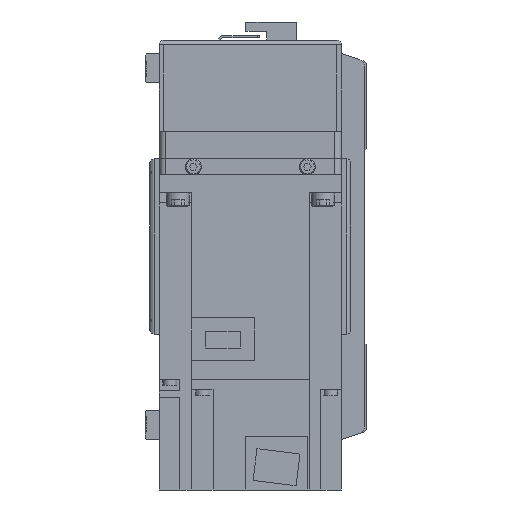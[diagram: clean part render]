
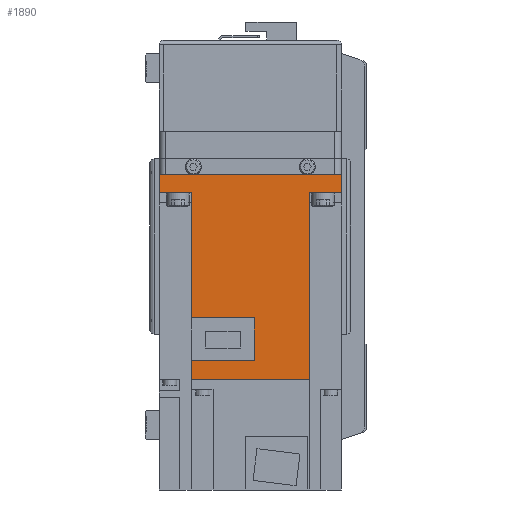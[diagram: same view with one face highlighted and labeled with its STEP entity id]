
A CAD part, left-side view. The second image highlights one B-rep face of the part: STEP entity #1890.
In plain terms, the highlighted planar face has unit normal (-1, 0, 0) as drawn and (1, 0, 0) by its records, which use the part's own axes.
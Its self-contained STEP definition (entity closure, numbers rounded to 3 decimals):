
#1890 = ADVANCED_FACE( '', ( #4509 ), #4510, .F. );
#4509 = FACE_OUTER_BOUND( '', #8003, .T. );
#4510 = PLANE( '', #8004 );
#8003 = EDGE_LOOP( '', ( #13401, #13402, #13403, #13404, #13405, #13406, #13407, #13408, #13409, #13410, #13411, #13412 ) );
#8004 = AXIS2_PLACEMENT_3D( '', #13413, #13414, #13415 );
#13401 = ORIENTED_EDGE( '', *, *, #21472, .F. );
#13402 = ORIENTED_EDGE( '', *, *, #20104, .F. );
#13403 = ORIENTED_EDGE( '', *, *, #21473, .F. );
#13404 = ORIENTED_EDGE( '', *, *, #20342, .T. );
#13405 = ORIENTED_EDGE( '', *, *, #21474, .F. );
#13406 = ORIENTED_EDGE( '', *, *, #21475, .T. );
#13407 = ORIENTED_EDGE( '', *, *, #21476, .T. );
#13408 = ORIENTED_EDGE( '', *, *, #21477, .F. );
#13409 = ORIENTED_EDGE( '', *, *, #21478, .F. );
#13410 = ORIENTED_EDGE( '', *, *, #20106, .F. );
#13411 = ORIENTED_EDGE( '', *, *, #21479, .F. );
#13412 = ORIENTED_EDGE( '', *, *, #20479, .F. );
#13413 = CARTESIAN_POINT( '', ( 40., 89.8, 40. ) );
#13414 = DIRECTION( '', ( -1., 0., 0. ) );
#13415 = DIRECTION( '', ( 0., 0., 1. ) );
#20104 = EDGE_CURVE( '', #24043, #24045, #24046, .T. );
#20106 = EDGE_CURVE( '', #24047, #24049, #24050, .T. );
#20342 = EDGE_CURVE( '', #24450, #24448, #24451, .T. );
#20479 = EDGE_CURVE( '', #24687, #24688, #24689, .T. );
#21472 = EDGE_CURVE( '', #24045, #24687, #26308, .T. );
#21473 = EDGE_CURVE( '', #24450, #24043, #26309, .T. );
#21474 = EDGE_CURVE( '', #26310, #24448, #26311, .T. );
#21475 = EDGE_CURVE( '', #26310, #26312, #26313, .T. );
#21476 = EDGE_CURVE( '', #26312, #26314, #26315, .T. );
#21477 = EDGE_CURVE( '', #26316, #26314, #26317, .T. );
#21478 = EDGE_CURVE( '', #24049, #26316, #26318, .T. );
#21479 = EDGE_CURVE( '', #24688, #24047, #26319, .T. );
#24043 = VERTEX_POINT( '', #29751 );
#24045 = VERTEX_POINT( '', #29754 );
#24046 = LINE( '', #29755, #29756 );
#24047 = VERTEX_POINT( '', #29757 );
#24049 = VERTEX_POINT( '', #29760 );
#24050 = LINE( '', #29761, #29762 );
#24448 = VERTEX_POINT( '', #30346 );
#24450 = VERTEX_POINT( '', #30349 );
#24451 = LINE( '', #30350, #30351 );
#24687 = VERTEX_POINT( '', #30899 );
#24688 = VERTEX_POINT( '', #30900 );
#24689 = LINE( '', #30901, #30902 );
#26308 = LINE( '', #33276, #33277 );
#26309 = LINE( '', #33278, #33279 );
#26310 = VERTEX_POINT( '', #33280 );
#26311 = LINE( '', #33281, #33282 );
#26312 = VERTEX_POINT( '', #33283 );
#26313 = LINE( '', #33284, #33285 );
#26314 = VERTEX_POINT( '', #33286 );
#26315 = LINE( '', #33287, #33288 );
#26316 = VERTEX_POINT( '', #33289 );
#26317 = LINE( '', #33290, #33291 );
#26318 = LINE( '', #33292, #33293 );
#26319 = LINE( '', #33294, #33295 );
#29751 = CARTESIAN_POINT( '', ( 40., 89.8, -25.95 ) );
#29754 = CARTESIAN_POINT( '', ( 40., 81.4, -25.95 ) );
#29755 = CARTESIAN_POINT( '', ( 40., 158., -25.95 ) );
#29756 = VECTOR( '', #37473, 1000. );
#29757 = CARTESIAN_POINT( '', ( 40., 62.8, -25.95 ) );
#29760 = CARTESIAN_POINT( '', ( 40., 8., -25.95 ) );
#29761 = CARTESIAN_POINT( '', ( 40., 158., -25.95 ) );
#29762 = VECTOR( '', #37475, 1000. );
#30346 = CARTESIAN_POINT( '', ( 40., 8., 25.95 ) );
#30349 = CARTESIAN_POINT( '', ( 40., 89.8, 25.95 ) );
#30350 = CARTESIAN_POINT( '', ( 40., 158., 25.95 ) );
#30351 = VECTOR( '', #37806, 1000. );
#30899 = CARTESIAN_POINT( '', ( 40., 81.4, 1.8 ) );
#30900 = CARTESIAN_POINT( '', ( 40., 62.8, 1.8 ) );
#30901 = CARTESIAN_POINT( '', ( 40., 81.4, 1.8 ) );
#30902 = VECTOR( '', #37975, 1000. );
#33276 = CARTESIAN_POINT( '', ( 40., 81.4, -26. ) );
#33277 = VECTOR( '', #39263, 1000. );
#33278 = CARTESIAN_POINT( '', ( 40., 89.8, 40. ) );
#33279 = VECTOR( '', #39264, 1000. );
#33280 = CARTESIAN_POINT( '', ( 40., 8., 40. ) );
#33281 = CARTESIAN_POINT( '', ( 40., 8., 40. ) );
#33282 = VECTOR( '', #39265, 1000. );
#33283 = CARTESIAN_POINT( '', ( 40., 0., 40. ) );
#33284 = CARTESIAN_POINT( '', ( 40., 89.8, 40. ) );
#33285 = VECTOR( '', #39266, 1000. );
#33286 = CARTESIAN_POINT( '', ( 40., 0., -40. ) );
#33287 = CARTESIAN_POINT( '', ( 40., 0., 40. ) );
#33288 = VECTOR( '', #39267, 1000. );
#33289 = CARTESIAN_POINT( '', ( 40., 8., -40. ) );
#33290 = CARTESIAN_POINT( '', ( 40., 89.8, -40. ) );
#33291 = VECTOR( '', #39268, 1000. );
#33292 = CARTESIAN_POINT( '', ( 40., 8., 40. ) );
#33293 = VECTOR( '', #39269, 1000. );
#33294 = CARTESIAN_POINT( '', ( 40., 62.8, 1.8 ) );
#33295 = VECTOR( '', #39270, 1000. );
#37473 = DIRECTION( '', ( 0., -1., 0. ) );
#37475 = DIRECTION( '', ( 0., -1., 0. ) );
#37806 = DIRECTION( '', ( 0., -1., 0. ) );
#37975 = DIRECTION( '', ( 0., -1., 0. ) );
#39263 = DIRECTION( '', ( 0., 0., 1. ) );
#39264 = DIRECTION( '', ( 0., 0., -1. ) );
#39265 = DIRECTION( '', ( 0., 0., -1. ) );
#39266 = DIRECTION( '', ( 0., -1., 0. ) );
#39267 = DIRECTION( '', ( 0., 0., -1. ) );
#39268 = DIRECTION( '', ( 0., -1., 0. ) );
#39269 = DIRECTION( '', ( 0., 0., -1. ) );
#39270 = DIRECTION( '', ( 0., 0., -1. ) );
